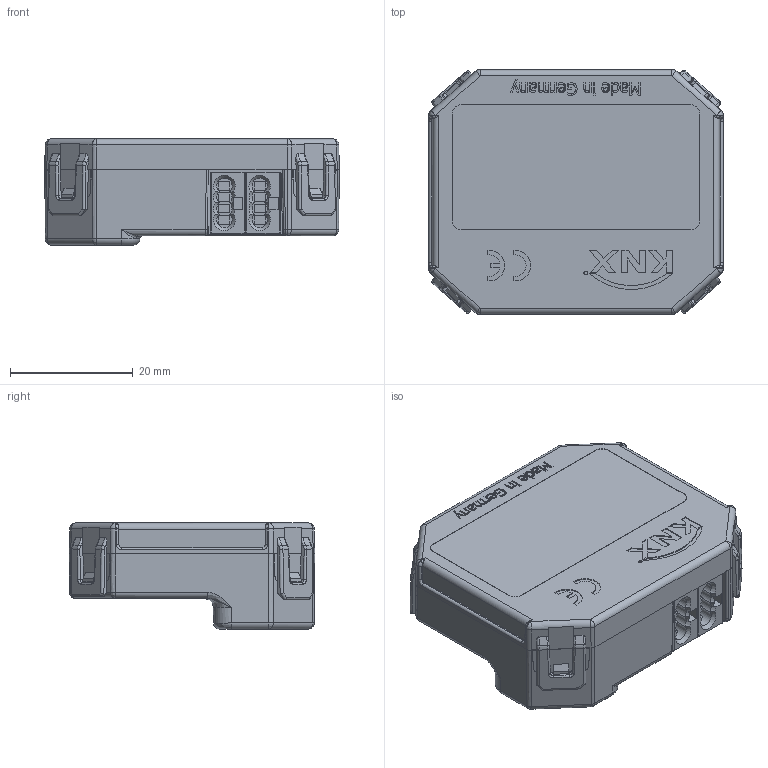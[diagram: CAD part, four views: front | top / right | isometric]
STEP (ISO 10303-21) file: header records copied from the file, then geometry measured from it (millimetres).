
FILE_DESCRIPTION(/* description */ (''),/* implementation_level */ '2;1');
FILE_NAME(/* name */ 'KNX_RF_TP_Coupler_673_1_secure.stp',/* time_stamp */ '2025-10-02T14:34:00+02:00',/* author */ (''),/* organization */ (''),/* preprocessor_version */ 'ST-DEVELOPER v17.2',/* originating_system */ 'Autodesk Inventor 2019',/* authorisation */ '');
FILE_SCHEMA (('AUTOMOTIVE_DESIGN { 1 0 10303 214 3 1 1 }'));
Length unit declared in the file: millimetre
Products named in the file (1): KNX_RF_TP_Coupler_673_1_secure
Bounding box: 48 x 40 x 17.3 mm (x, y, z)
Volume: 24354.5 mm3; surface area: 8052.6 mm2
Topology: 1 solids, 5 shells, 1165 faces, 3040 edges, 1928 vertices
Faces by surface type: plane 597, bspline 299, cylinder 217, cone 20, sphere 19, torus 13
Full cylindrical faces by diameter (mm): 0.6 x1, 1 x2, 1.1 x2, 3.5 x3, 3.8 x3, 4.237 x2, 4.5 x2
Entity records: 39479 total; most frequent: CARTESIAN_POINT 11250, ORIENTED_EDGE 6038, DIRECTION 4786, EDGE_CURVE 3019, LINE 1956, VECTOR 1956, VERTEX_POINT 1928, AXIS2_PLACEMENT_3D 1415
